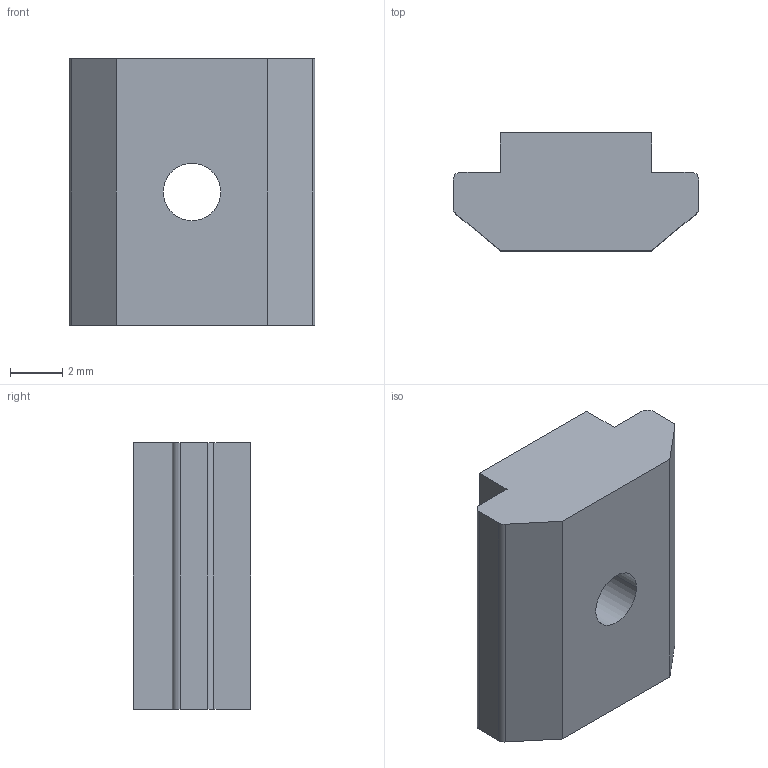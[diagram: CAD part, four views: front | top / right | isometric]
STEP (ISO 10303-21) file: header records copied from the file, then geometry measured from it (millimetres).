
FILE_DESCRIPTION (( 'STEP AP214' ), '1' );
FILE_NAME ('Ñáîðêà1.STEP', '2015-08-17T12:51:42', ( 'user' ), ( '' ), 'SwSTEP 2.0', 'SolidWorks 2014', '' );
FILE_SCHEMA (( 'AUTOMOTIVE_DESIGN' ));
Length unit declared in the file: millimetre
Products named in the file (3): 栖闉罻1; SNSD.30.52.92. Ñóõàðü ïàçîâûé Ì3, ïàç 6(S34)_00; SNSD.30.52.92. Ñóõàðü ïàçîâûé Ì3, ïàç 6(S34)
Assembly tree (1 placements, depth 2):
  栖闉罻1
    SNSD.30.52.92. Ñóõàðü ïàçîâûé Ì3, ïàç 6(S34)_00
  SNSD.30.52.92. Ñóõàðü ïàçîâûé Ì3, ïàç 6(S34)
Bounding box: 9.4 x 4.5 x 10.2 mm (x, y, z)
Volume: 331.1 mm3; surface area: 351.9 mm2
Topology: 1 solids, 1 shells, 20 faces, 52 edges, 34 vertices
Faces by surface type: plane 12, cylinder 6, cone 2
Entity records: 721 total; most frequent: DIRECTION 116, CARTESIAN_POINT 111, ORIENTED_EDGE 104, EDGE_CURVE 52, AXIS2_PLACEMENT_3D 39, VECTOR 38, LINE 38, VERTEX_POINT 34
